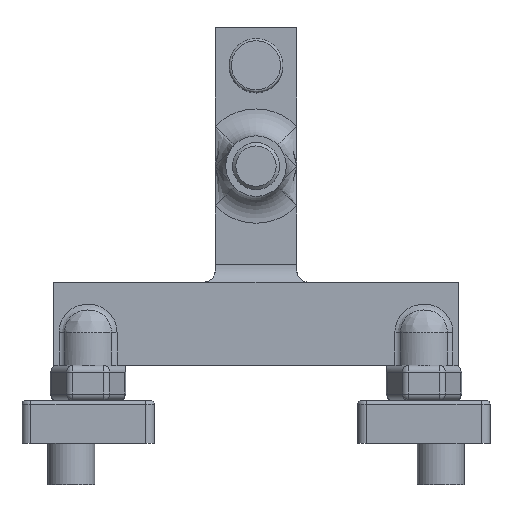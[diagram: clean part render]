
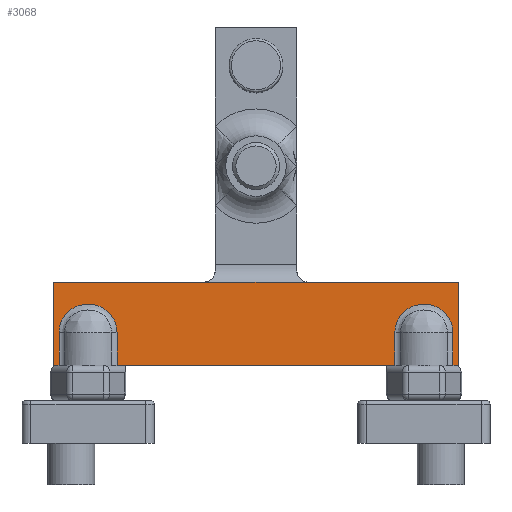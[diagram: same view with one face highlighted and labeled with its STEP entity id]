
A CAD part, front view. The second image highlights one B-rep face of the part: STEP entity #3068.
In plain terms, the highlighted planar face has unit normal (0, -1, 0).
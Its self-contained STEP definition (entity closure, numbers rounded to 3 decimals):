
#81=B_SPLINE_CURVE_WITH_KNOTS('',3,(#4740,#4741,#4742,#4743,#4744,#4745,
#4746,#4747,#4748,#4749,#4750,#4751),.UNSPECIFIED.,.F.,.F.,(4,1,1,1,1,1,
1,1,1,4),(-4.025,-3.45,-2.875,-2.3,
-2.013,-1.725,-1.438,-1.15,
-0.575,0.),.UNSPECIFIED.);
#93=B_SPLINE_CURVE_WITH_KNOTS('',3,(#5263,#5264,#5265,#5266,#5267,#5268,
#5269,#5270,#5271,#5272,#5273),.UNSPECIFIED.,.F.,.F.,(4,1,1,1,1,1,1,1,4),
(-4.025,-3.45,-2.875,-2.3,
-2.013,-1.725,-1.15,-0.575,
0.),.UNSPECIFIED.);
#153=PLANE('',#3378);
#451=FACE_OUTER_BOUND('',#655,.T.);
#655=EDGE_LOOP('',(#2426,#2427,#2428,#2429,#2430,#2431,#2432,#2433,#2434,
#2435,#2436,#2437,#2438,#2439,#2440,#2441));
#797=LINE('',#4685,#1017);
#799=LINE('',#4768,#1019);
#866=LINE('',#5183,#1086);
#869=LINE('',#5188,#1089);
#886=LINE('',#5256,#1106);
#887=LINE('',#5259,#1107);
#888=LINE('',#5261,#1108);
#889=LINE('',#5275,#1109);
#890=LINE('',#5276,#1110);
#891=LINE('',#5277,#1111);
#892=LINE('',#5279,#1112);
#893=LINE('',#5280,#1113);
#1017=VECTOR('',#3664,10.);
#1019=VECTOR('',#3674,10.);
#1086=VECTOR('',#3981,10.);
#1089=VECTOR('',#3986,10.);
#1106=VECTOR('',#4029,10.);
#1107=VECTOR('',#4032,10.);
#1108=VECTOR('',#4033,10.);
#1109=VECTOR('',#4034,10.);
#1110=VECTOR('',#4035,10.);
#1111=VECTOR('',#4036,10.);
#1112=VECTOR('',#4037,10.);
#1113=VECTOR('',#4038,10.);
#1313=CIRCLE('',#3355,1.);
#1316=CIRCLE('',#3362,1.);
#1432=VERTEX_POINT('',#4682);
#1433=VERTEX_POINT('',#4684);
#1436=VERTEX_POINT('',#4738);
#1438=VERTEX_POINT('',#4766);
#1532=VERTEX_POINT('',#5155);
#1533=VERTEX_POINT('',#5156);
#1538=VERTEX_POINT('',#5176);
#1539=VERTEX_POINT('',#5177);
#1540=VERTEX_POINT('',#5182);
#1541=VERTEX_POINT('',#5186);
#1555=VERTEX_POINT('',#5241);
#1556=VERTEX_POINT('',#5258);
#1557=VERTEX_POINT('',#5260);
#1558=VERTEX_POINT('',#5262);
#1559=VERTEX_POINT('',#5274);
#1560=VERTEX_POINT('',#5278);
#1691=EDGE_CURVE('',#1432,#1433,#797,.T.);
#1695=EDGE_CURVE('',#1436,#1432,#81,.T.);
#1698=EDGE_CURVE('',#1438,#1436,#799,.T.);
#1831=EDGE_CURVE('',#1532,#1533,#1313,.T.);
#1842=EDGE_CURVE('',#1538,#1539,#1316,.T.);
#1845=EDGE_CURVE('',#1540,#1533,#866,.T.);
#1848=EDGE_CURVE('',#1532,#1541,#869,.T.);
#1871=EDGE_CURVE('',#1555,#1539,#886,.T.);
#1872=EDGE_CURVE('',#1438,#1556,#887,.T.);
#1873=EDGE_CURVE('',#1557,#1556,#888,.T.);
#1874=EDGE_CURVE('',#1558,#1557,#93,.T.);
#1875=EDGE_CURVE('',#1559,#1558,#889,.T.);
#1876=EDGE_CURVE('',#1559,#1540,#890,.T.);
#1877=EDGE_CURVE('',#1541,#1555,#891,.T.);
#1878=EDGE_CURVE('',#1538,#1560,#892,.T.);
#1879=EDGE_CURVE('',#1560,#1433,#893,.T.);
#2426=ORIENTED_EDGE('',*,*,#1698,.F.);
#2427=ORIENTED_EDGE('',*,*,#1872,.T.);
#2428=ORIENTED_EDGE('',*,*,#1873,.F.);
#2429=ORIENTED_EDGE('',*,*,#1874,.F.);
#2430=ORIENTED_EDGE('',*,*,#1875,.F.);
#2431=ORIENTED_EDGE('',*,*,#1876,.T.);
#2432=ORIENTED_EDGE('',*,*,#1845,.T.);
#2433=ORIENTED_EDGE('',*,*,#1831,.F.);
#2434=ORIENTED_EDGE('',*,*,#1848,.T.);
#2435=ORIENTED_EDGE('',*,*,#1877,.T.);
#2436=ORIENTED_EDGE('',*,*,#1871,.T.);
#2437=ORIENTED_EDGE('',*,*,#1842,.F.);
#2438=ORIENTED_EDGE('',*,*,#1878,.T.);
#2439=ORIENTED_EDGE('',*,*,#1879,.T.);
#2440=ORIENTED_EDGE('',*,*,#1691,.F.);
#2441=ORIENTED_EDGE('',*,*,#1695,.F.);
#3068=ADVANCED_FACE('',(#451),#153,.T.);
#3355=AXIS2_PLACEMENT_3D('',#5157,#3953,#3954);
#3362=AXIS2_PLACEMENT_3D('',#5178,#3975,#3976);
#3378=AXIS2_PLACEMENT_3D('',#5257,#4030,#4031);
#3664=DIRECTION('',(0.,0.,-1.));
#3674=DIRECTION('',(0.,0.,1.));
#3953=DIRECTION('center_axis',(0.,1.,0.));
#3954=DIRECTION('ref_axis',(0.707,0.,0.707));
#3975=DIRECTION('center_axis',(0.,1.,0.));
#3976=DIRECTION('ref_axis',(-0.707,0.,0.707));
#3981=DIRECTION('',(0.,0.,1.));
#3986=DIRECTION('',(-1.,0.,0.));
#4029=DIRECTION('',(-1.,0.,0.));
#4030=DIRECTION('center_axis',(0.,-1.,0.));
#4031=DIRECTION('ref_axis',(0.,0.,-1.));
#4032=DIRECTION('',(1.,0.,0.));
#4033=DIRECTION('',(0.,0.,-1.));
#4034=DIRECTION('',(0.,0.,1.));
#4035=DIRECTION('',(1.,0.,0.));
#4036=DIRECTION('',(-1.,0.,0.));
#4037=DIRECTION('',(0.,0.,-1.));
#4038=DIRECTION('',(1.,0.,0.));
#4682=CARTESIAN_POINT('',(-87.961,-51.,-4.302));
#4684=CARTESIAN_POINT('',(-87.961,-51.,-19.));
#4685=CARTESIAN_POINT('',(-87.961,-51.,-19.));
#4738=CARTESIAN_POINT('',(-62.039,-51.,-4.302));
#4740=CARTESIAN_POINT('Ctrl Pts',(-62.039,-51.,-4.302));
#4741=CARTESIAN_POINT('Ctrl Pts',(-62.039,-51.,-2.385));
#4742=CARTESIAN_POINT('Ctrl Pts',(-62.929,-51.,1.445));
#4743=CARTESIAN_POINT('Ctrl Pts',(-66.672,-51.,6.019));
#4744=CARTESIAN_POINT('Ctrl Pts',(-71.164,-51.,8.024));
#4745=CARTESIAN_POINT('Ctrl Pts',(-75.,-51.,8.365));
#4746=CARTESIAN_POINT('Ctrl Pts',(-77.877,-51.,8.108));
#4747=CARTESIAN_POINT('Ctrl Pts',(-80.634,-51.,7.227));
#4748=CARTESIAN_POINT('Ctrl Pts',(-83.95,-51.,5.251));
#4749=CARTESIAN_POINT('Ctrl Pts',(-87.072,-51.,1.448));
#4750=CARTESIAN_POINT('Ctrl Pts',(-87.961,-51.,-2.385));
#4751=CARTESIAN_POINT('Ctrl Pts',(-87.961,-51.,-4.302));
#4766=CARTESIAN_POINT('',(-62.039,-51.,-19.));
#4768=CARTESIAN_POINT('',(-62.039,-51.,-19.));
#5155=CARTESIAN_POINT('',(89.5,-51.,18.2));
#5156=CARTESIAN_POINT('',(90.5,-51.,17.2));
#5157=CARTESIAN_POINT('Origin',(89.5,-51.,17.2));
#5176=CARTESIAN_POINT('',(-90.5,-51.,17.2));
#5177=CARTESIAN_POINT('',(-89.5,-51.,18.2));
#5178=CARTESIAN_POINT('Origin',(-89.5,-51.,17.2));
#5182=CARTESIAN_POINT('',(90.5,-51.,-19.));
#5183=CARTESIAN_POINT('',(90.5,-51.,-19.));
#5186=CARTESIAN_POINT('',(23.25,-51.,18.2));
#5188=CARTESIAN_POINT('',(90.5,-51.,18.2));
#5241=CARTESIAN_POINT('',(-23.25,-51.,18.2));
#5256=CARTESIAN_POINT('',(90.5,-51.,18.2));
#5257=CARTESIAN_POINT('Origin',(0.,-51.,56.5));
#5258=CARTESIAN_POINT('',(62.039,-51.,-19.));
#5259=CARTESIAN_POINT('',(-90.5,-51.,-19.));
#5260=CARTESIAN_POINT('',(62.039,-51.,-4.302));
#5261=CARTESIAN_POINT('',(62.039,-51.,-19.));
#5262=CARTESIAN_POINT('',(87.961,-51.,-4.302));
#5263=CARTESIAN_POINT('Ctrl Pts',(87.961,-51.,-4.302));
#5264=CARTESIAN_POINT('Ctrl Pts',(87.961,-51.,-2.385));
#5265=CARTESIAN_POINT('Ctrl Pts',(87.071,-51.,1.446));
#5266=CARTESIAN_POINT('Ctrl Pts',(83.327,-51.,6.014));
#5267=CARTESIAN_POINT('Ctrl Pts',(78.838,-51.,8.028));
#5268=CARTESIAN_POINT('Ctrl Pts',(75.,-51.,8.364));
#5269=CARTESIAN_POINT('Ctrl Pts',(71.164,-51.,8.025));
#5270=CARTESIAN_POINT('Ctrl Pts',(66.672,-51.,6.019));
#5271=CARTESIAN_POINT('Ctrl Pts',(62.929,-51.,1.446));
#5272=CARTESIAN_POINT('Ctrl Pts',(62.039,-51.,-2.385));
#5273=CARTESIAN_POINT('Ctrl Pts',(62.039,-51.,-4.302));
#5274=CARTESIAN_POINT('',(87.961,-51.,-19.));
#5275=CARTESIAN_POINT('',(87.961,-51.,-19.));
#5276=CARTESIAN_POINT('',(-90.5,-51.,-19.));
#5277=CARTESIAN_POINT('',(0.,-51.,18.2));
#5278=CARTESIAN_POINT('',(-90.5,-51.,-19.));
#5279=CARTESIAN_POINT('',(-90.5,-51.,18.2));
#5280=CARTESIAN_POINT('',(-90.5,-51.,-19.));
